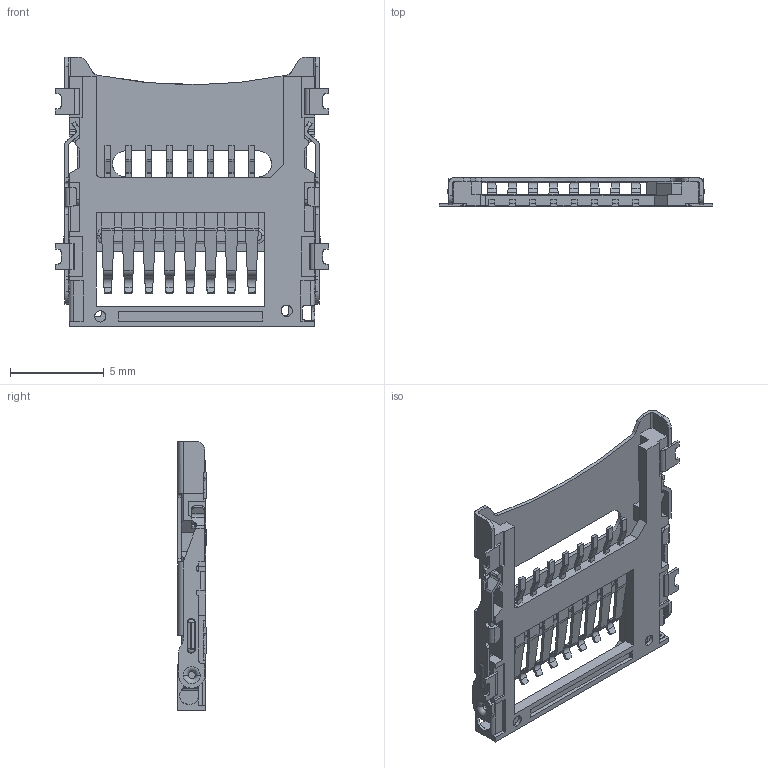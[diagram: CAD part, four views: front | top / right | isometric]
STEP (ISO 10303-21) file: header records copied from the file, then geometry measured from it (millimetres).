
FILE_DESCRIPTION(('CATIA V5 STEP Exchange'),'2;1');
FILE_NAME('F:\REF\特图电子-单阳光\2D\06-T-Flash\TF套用新图框\tf_1060801gr105.stp','2020-10-09T00:53:27+00:00',('none'),('none'),'CATIA Version 5 Release 17 (IN-10)','CATIA V5 STEP AP203','none');
FILE_SCHEMA(('CONFIG_CONTROL_DESIGN'));
Length unit declared in the file: millimetre
Products named in the file (2): TF_掀盖_1.5H.stp; ALL-ASS_ASM-H_ASM
Assembly tree (3 placements, depth 3):
  TF_掀盖_1.5H.stp
    ALL-ASS_ASM-H_ASM
      #62
      #21162
Bounding box: 14.6 x 1.53 x 14.4 mm (x, y, z)
Volume: 87 mm3; surface area: 646.9 mm2
Topology: 2 solids, 2 shells, 1112 faces, 2968 edges, 1888 vertices
Faces by surface type: plane 627, cylinder 245, extrusion 130, bspline 58, torus 28, revolution 24
Entity records: 39090 total; most frequent: CARTESIAN_POINT 13002, ORIENTED_EDGE 5920, DIRECTION 4238, EDGE_CURVE 2960, VECTOR 2113, LINE 1983, VERTEX_POINT 1888, AXIS2_PLACEMENT_3D 1195
